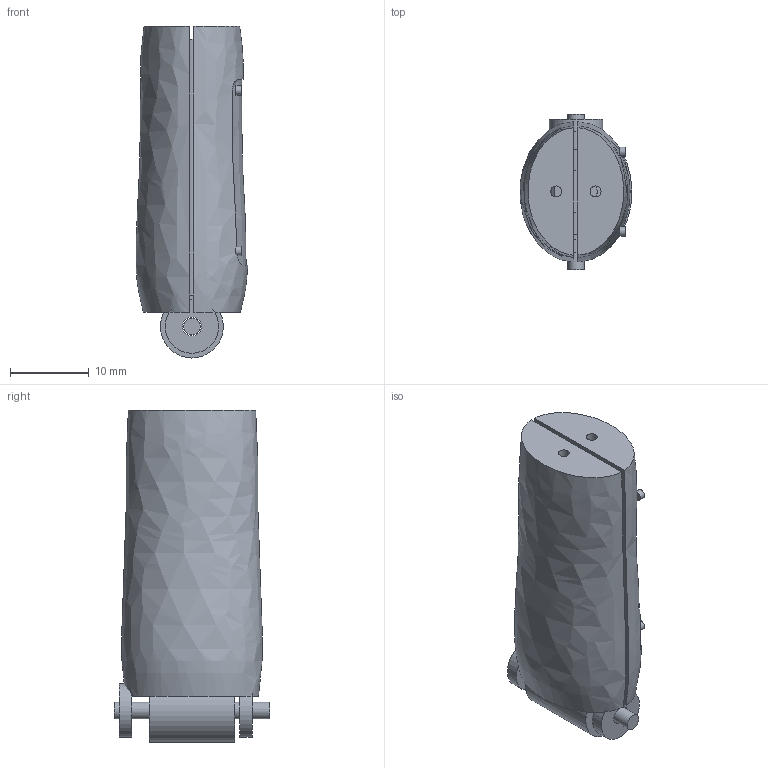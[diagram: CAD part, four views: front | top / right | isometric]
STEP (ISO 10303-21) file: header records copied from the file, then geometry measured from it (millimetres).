
FILE_DESCRIPTION(('FreeCAD Model'),'2;1');
FILE_NAME('Open CASCADE Shape Model','2026-10-05T09:22:55',('Author'),( ''),'Open CASCADE STEP processor 7.8','FreeCAD','Unknown');
FILE_SCHEMA(('AUTOMOTIVE_DESIGN { 1 0 10303 214 1 1 1 1 }'));
Length unit declared in the file: millimetre
Products named in the file (13): Export_index_proximal; index_proximalDorsalShell; index_proximalFlexorShell; index_proximalInsetPad; index_proximalCore; index_proximalHingeBarrel; index_proximalCheek-1; index_proximalCheek1; index_proximalPin; index_proximalScrew_-1_0.24; index_proximalScrew_-1_0.75; index_proximalScrew_1_0.24; index_proximalScrew_1_0.75
Assembly tree (12 placements, depth 2):
  Export_index_proximal
    index_proximalDorsalShell
    index_proximalFlexorShell
    index_proximalInsetPad
    index_proximalCore
    index_proximalHingeBarrel
    index_proximalCheek-1
    index_proximalCheek1
    index_proximalPin
    index_proximalScrew_-1_0.24
    index_proximalScrew_-1_0.75
    index_proximalScrew_1_0.24
    index_proximalScrew_1_0.75
Bounding box: 14.22 x 19.8 x 42.2 mm (x, y, z)
Volume: 7591.5 mm3; surface area: 5652.8 mm2
Topology: 12 solids, 12 shells, 83 faces, 150 edges, 90 vertices
Faces by surface type: plane 38, cylinder 34, sphere 8, bspline 3
Full cylindrical faces by diameter (mm): 0.464 x4, 1.16 x4, 1.4 x2, 2.1 x1, 2.4 x3, 5.4 x1, 6.8 x2, 8 x1
Entity records: 3146 total; most frequent: CARTESIAN_POINT 1358, DIRECTION 356, ORIENTED_EDGE 288, AXIS2_PLACEMENT_3D 153, EDGE_CURVE 144, FACE_BOUND 98, EDGE_LOOP 98, VERTEX_POINT 90
